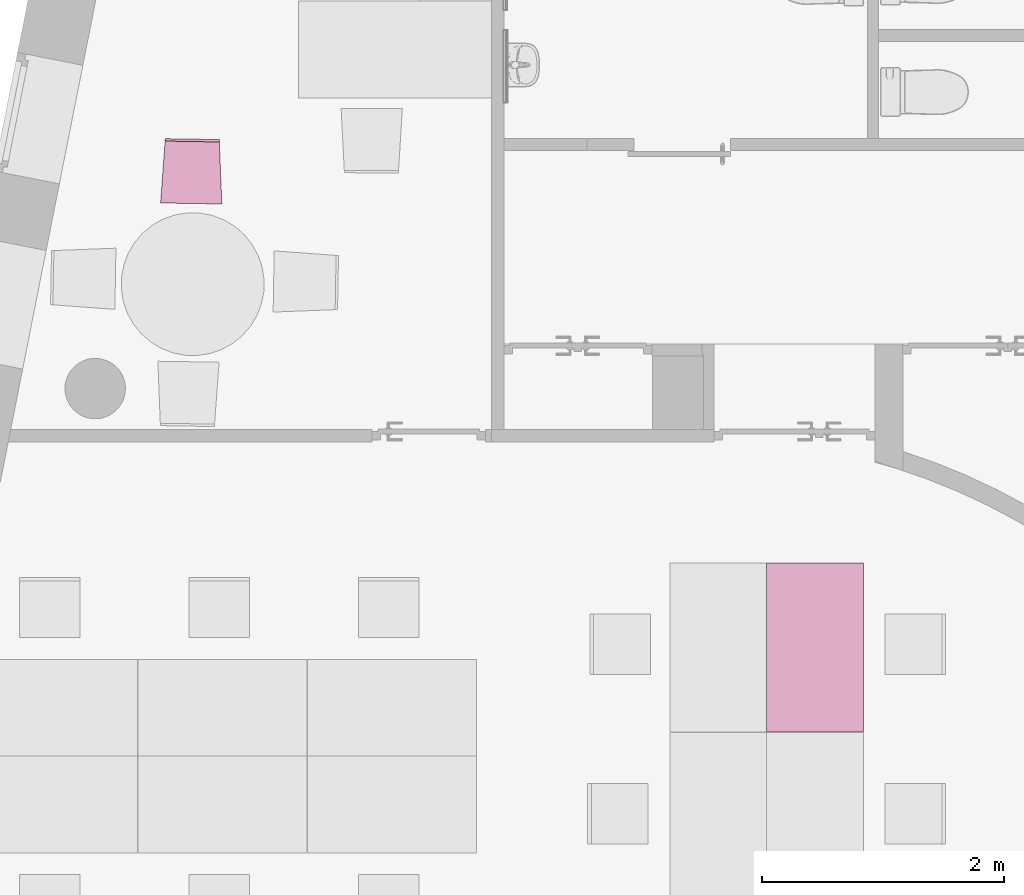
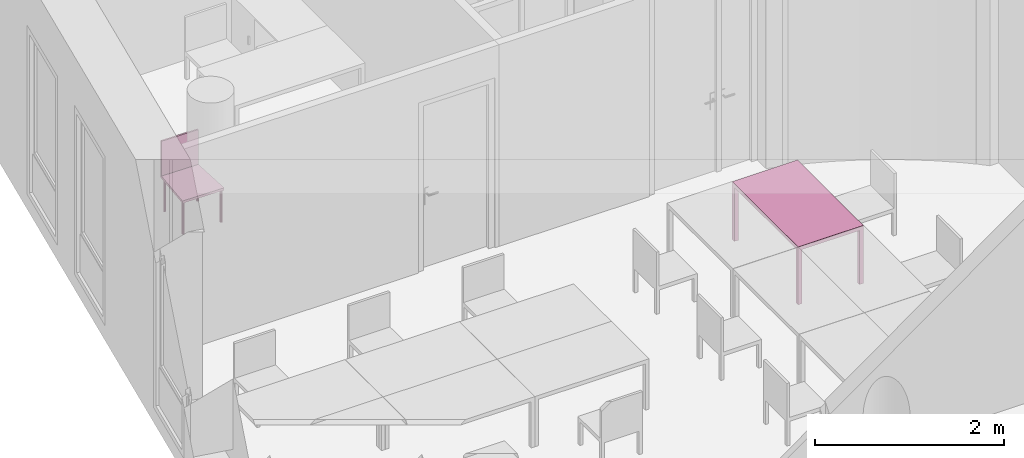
"""IFC4 building model written with IfcOpenShell, lengths in metres."""

from ifc_helpers import new_model, entity, si_unit, converted_unit, derived_unit, frame, origin, place, context, subcontext, project, spatial, faceted_brep, element, save


model = new_model("IFC4")

# Units and contexts
model_context = context("Model", 3, precision=1e-05, world=origin())
body_context = subcontext(model_context, "Body", "Model", "MODEL_VIEW")
ifc_project = project(units=[si_unit("LENGTHUNIT", "METRE"), si_unit("AREAUNIT", "SQUARE_METRE"), si_unit("VOLUMEUNIT", "CUBIC_METRE"), si_unit("MASSUNIT", "GRAM", prefix="KILO"), converted_unit("PLANEANGLEUNIT", "DEGREE", entity("IfcPlaneAngleMeasure", 0.0174532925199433), si_unit("PLANEANGLEUNIT", "RADIAN"), dimensions=[0, 0, 0, 0, 0, 0, 0]), derived_unit("THERMALTRANSMITTANCEUNIT", [(si_unit("POWERUNIT", "WATT"), 1), (si_unit("THERMODYNAMICTEMPERATUREUNIT", "KELVIN"), -1), (si_unit("LENGTHUNIT", "METRE"), -2)]), derived_unit("VOLUMETRICFLOWRATEUNIT", [(si_unit("LENGTHUNIT", "METRE"), 3), (converted_unit("TIMEUNIT", "hour", entity("IfcTimeMeasure", 3600.0), si_unit("TIMEUNIT", "SECOND"), dimensions=[0, 0, 1, 0, 0, 0, 0]), -1), (si_unit("LENGTHUNIT", "METRE"), -1)])], contexts=[model_context])

# Building, storeys
building_placement = place(None, origin())
building = spatial("IfcBuilding", under=ifc_project, at=building_placement, Name="HABITATGE PLURIFAMILIAR", CompositionType="ELEMENT")
storey_1_placement = place(building_placement, frame((0.0, 0.0, 9.26)))
storey_1 = spatial("IfcBuildingStorey", under=building, at=storey_1_placement, Name="PLANTA SEGONA", CompositionType="ELEMENT", Elevation=9.26)
storey_2_placement = place(storey_1_placement, frame((0.0, 0.0, 6.25)))
storey_2 = spatial("IfcBuildingStorey", under=storey_1, at=storey_2_placement, Name="NOU", CompositionType="PARTIAL")

# Furniture
furniture_1_placement = place(storey_2_placement, frame((406.611621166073, 21.0190050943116, -6.3499999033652)))
element("IfcFurniture", 1, at=furniture_1_placement, inside=storey_2, Name="Taula 140X80_P2", context=body_context, shape_type="Brep", body=[
    faceted_brep([(0.05, 1.35357768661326, 0.0), (0.05, 1.39732768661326, 0.0), (0.0, 1.39732768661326, 0.0), (0.0, 1.35357768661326, 0.0), (0.0, 1.35357768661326, 0.7), (0.0, 1.39732768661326, 0.7), (0.05, 1.39732768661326, 0.7), (0.05, 1.35357768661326, 0.7)], [[[0, 1, 2, 3]], [[4, 5, 6, 7]], [[3, 4, 7, 0]], [[2, 5, 4, 3]], [[1, 6, 5, 2]], [[0, 7, 6, 1]]], orient=[[False], [False], [False], [False], [False], [False]]),
    faceted_brep([(0.800069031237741, 1.35357768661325, 0.0), (0.800069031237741, 1.39732768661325, 0.0), (0.750069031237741, 1.39732768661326, 0.0), (0.750069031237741, 1.35357768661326, 0.0), (0.750069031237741, 1.35357768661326, 0.7), (0.750069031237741, 1.39732768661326, 0.7), (0.800069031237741, 1.39732768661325, 0.7), (0.800069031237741, 1.35357768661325, 0.7)], [[[0, 1, 2, 3]], [[4, 5, 6, 7]], [[3, 4, 7, 0]], [[2, 5, 4, 3]], [[1, 6, 5, 2]], [[0, 7, 6, 1]]], orient=[[False], [False], [False], [False], [False], [False]]),
    faceted_brep([(0.800069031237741, 0.0, 0.7), (0.800069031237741, 1.39732768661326, 0.7), (0.0, 1.39732768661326, 0.7), (0.0, 0.0, 0.7), (0.0, 0.0, 0.75), (0.0, 1.39732768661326, 0.75), (0.800069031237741, 1.39732768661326, 0.75), (0.800069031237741, 0.0, 0.75)], [[[0, 1, 2, 3]], [[4, 5, 6, 7]], [[3, 4, 7, 0]], [[2, 5, 4, 3]], [[1, 6, 5, 2]], [[0, 7, 6, 1]]], orient=[[False], [False], [False], [False], [False], [False]]),
    faceted_brep([(0.05, 0.0, 0.0), (0.05, 0.0437500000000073, 0.0), (0.0, 0.0437500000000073, 0.0), (0.0, 0.0, 0.0), (0.0, 0.0, 0.7), (0.0, 0.0437500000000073, 0.7), (0.05, 0.0437500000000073, 0.7), (0.05, 0.0, 0.7)], [[[0, 1, 2, 3]], [[4, 5, 6, 7]], [[3, 4, 7, 0]], [[2, 5, 4, 3]], [[1, 6, 5, 2]], [[0, 7, 6, 1]]], orient=[[False], [False], [False], [False], [False], [False]]),
    faceted_brep([(0.800069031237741, 0.0, 0.0), (0.800069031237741, 0.04375, 0.0), (0.750069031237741, 0.04375, 0.0), (0.750069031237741, 0.0, 0.0), (0.750069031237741, 0.0, 0.7), (0.750069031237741, 0.04375, 0.7), (0.800069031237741, 0.04375, 0.7), (0.800069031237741, 0.0, 0.7)], [[[0, 1, 2, 3]], [[4, 5, 6, 7]], [[3, 4, 7, 0]], [[2, 5, 4, 3]], [[1, 6, 5, 2]], [[0, 7, 6, 1]]], orient=[[False], [False], [False], [False], [False], [False]]),
])
furniture_2_placement = place(storey_2_placement, frame((401.597689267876, 25.3860485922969, -6.3514820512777)))
element("IfcFurniture", 2, at=furniture_2_placement, inside=storey_2, Name="Cadira confident_P2", context=body_context, shape_type="Brep", body=[
    faceted_brep([(0.467711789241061, 0.0257632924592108, 0.0), (0.467894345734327, 0.0231658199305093, 0.0), (0.468525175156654, 0.0206395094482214, 0.0), (0.469585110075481, 0.0182611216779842, 0.0), (0.471041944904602, 0.0161029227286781, 0.0), (0.47285141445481, 0.0142304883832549, 0.0), (0.474958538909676, 0.0127007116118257, 0.0), (0.477299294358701, 0.0115600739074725, 0.0), (0.479802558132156, 0.0108432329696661, 0.0), (0.482392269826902, 0.0105719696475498, 0.0), (0.48498974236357, 0.0107545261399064, 0.0), (0.487516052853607, 0.0113853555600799, 0.0), (0.489894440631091, 0.012445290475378, 0.0), (0.492052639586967, 0.0139021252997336, 0.0), (0.49392507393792, 0.0157115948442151, 0.0), (0.495454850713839, 0.0178187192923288, 0.0), (0.496595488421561, 0.0201594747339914, 0.0), (0.497312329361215, 0.0226627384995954, 0.0), (0.49758359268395, 0.0252524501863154, 0.0), (0.497401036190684, 0.0278499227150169, 0.0), (0.496770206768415, 0.0303762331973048, 0.0), (0.49571027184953, 0.032754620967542, 0.0), (0.494253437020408, 0.0349128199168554, 0.0), (0.492443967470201, 0.0367852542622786, 0.0), (0.490336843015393, 0.0383150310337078, 0.0), (0.487996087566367, 0.0394556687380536, 0.0), (0.485492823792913, 0.0401725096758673, 0.0), (0.482903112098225, 0.0404437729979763, 0.0), (0.480305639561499, 0.0402612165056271, 0.0), (0.477779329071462, 0.0396303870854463, 0.0), (0.475400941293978, 0.0385704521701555, 0.0), (0.473242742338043, 0.0371136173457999, 0.0), (0.47137030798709, 0.0353041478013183, 0.0), (0.469840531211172, 0.0331970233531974, 0.0), (0.468699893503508, 0.0308562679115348, 0.0), (0.467983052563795, 0.0283530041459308, 0.0), (0.467711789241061, 0.0257632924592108, 0.448281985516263), (0.467983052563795, 0.0283530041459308, 0.448281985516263), (0.468699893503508, 0.0308562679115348, 0.448281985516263), (0.469840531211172, 0.0331970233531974, 0.448281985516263), (0.47137030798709, 0.0353041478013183, 0.448281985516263), (0.473242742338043, 0.0371136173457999, 0.448281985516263), (0.475400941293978, 0.0385704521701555, 0.448281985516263), (0.477779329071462, 0.0396303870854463, 0.448281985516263), (0.480305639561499, 0.0402612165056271, 0.448281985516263), (0.482903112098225, 0.0404437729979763, 0.448281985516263), (0.485492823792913, 0.0401725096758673, 0.448281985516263), (0.487996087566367, 0.0394556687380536, 0.448281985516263), (0.490336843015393, 0.0383150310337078, 0.448281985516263), (0.492443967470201, 0.0367852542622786, 0.448281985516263), (0.494253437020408, 0.0349128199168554, 0.448281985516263), (0.49571027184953, 0.032754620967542, 0.448281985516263), (0.496770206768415, 0.0303762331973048, 0.448281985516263), (0.497401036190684, 0.0278499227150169, 0.448281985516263), (0.49758359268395, 0.0252524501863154, 0.448281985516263), (0.497312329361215, 0.0226627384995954, 0.448281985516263), (0.496595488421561, 0.0201594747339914, 0.448281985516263), (0.495454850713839, 0.0178187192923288, 0.448281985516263), (0.49392507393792, 0.0157115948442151, 0.448281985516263), (0.492052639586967, 0.0139021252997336, 0.448281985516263), (0.489894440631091, 0.012445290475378, 0.448281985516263), (0.487516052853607, 0.0113853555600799, 0.448281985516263), (0.48498974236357, 0.0107545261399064, 0.448281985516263), (0.482392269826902, 0.0105719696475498, 0.448281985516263), (0.479802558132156, 0.0108432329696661, 0.448281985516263), (0.477299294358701, 0.0115600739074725, 0.448281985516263), (0.474958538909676, 0.0127007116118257, 0.448281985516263), (0.47285141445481, 0.0142304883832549, 0.448281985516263), (0.471041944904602, 0.0161029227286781, 0.448281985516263), (0.469585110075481, 0.0182611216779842, 0.448281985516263), (0.468525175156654, 0.0206395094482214, 0.448281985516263), (0.467894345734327, 0.0231658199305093, 0.448281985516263)], [[[0, 1, 2, 3, 4, 5, 6, 7, 8, 9, 10, 11, 12, 13, 14, 15, 16, 17, 18, 19, 20, 21, 22, 23, 24, 25, 26, 27, 28, 29, 30, 31, 32, 33, 34, 35]], [[36, 37, 38, 39, 40, 41, 42, 43, 44, 45, 46, 47, 48, 49, 50, 51, 52, 53, 54, 55, 56, 57, 58, 59, 60, 61, 62, 63, 64, 65, 66, 67, 68, 69, 70, 71]], [[35, 37, 36, 0]], [[34, 38, 37, 35]], [[33, 39, 38, 34]], [[32, 40, 39, 33]], [[31, 41, 40, 32]], [[30, 42, 41, 31]], [[29, 43, 42, 30]], [[28, 44, 43, 29]], [[27, 45, 44, 28]], [[26, 46, 45, 27]], [[25, 47, 46, 26]], [[24, 48, 47, 25]], [[23, 49, 48, 24]], [[22, 50, 49, 23]], [[21, 51, 50, 22]], [[20, 52, 51, 21]], [[19, 53, 52, 20]], [[18, 54, 53, 19]], [[17, 55, 54, 18]], [[16, 56, 55, 17]], [[15, 57, 56, 16]], [[14, 58, 57, 15]], [[13, 59, 58, 14]], [[12, 60, 59, 13]], [[11, 61, 60, 12]], [[10, 62, 61, 11]], [[9, 63, 62, 10]], [[8, 64, 63, 9]], [[7, 65, 64, 8]], [[6, 66, 65, 7]], [[5, 67, 66, 6]], [[4, 68, 67, 5]], [[3, 69, 68, 4]], [[2, 70, 69, 3]], [[1, 71, 70, 2]], [[0, 36, 71, 1]]], orient=[[False], [False], [False], [False], [False], [False], [False], [False], [False], [False], [False], [False], [False], [False], [False], [False], [False], [False], [False], [False], [False], [False], [False], [False], [False], [False], [False], [False], [False], [False], [False], [False], [False], [False], [False], [False], [False], [False]]),
    faceted_brep([(0.447984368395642, 0.488575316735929, 0.0), (0.44816692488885, 0.485977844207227, 0.0), (0.448797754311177, 0.48345153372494, 0.0), (0.449857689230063, 0.481073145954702, 0.0), (0.451314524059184, 0.478914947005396, 0.0), (0.453123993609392, 0.477042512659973, 0.0), (0.455231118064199, 0.475512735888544, 0.0), (0.457571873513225, 0.474372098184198, 0.0), (0.460075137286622, 0.473655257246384, 0.0), (0.462664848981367, 0.473383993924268, 0.0), (0.465262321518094, 0.473566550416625, 0.0), (0.467788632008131, 0.474197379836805, 0.0), (0.470167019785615, 0.475257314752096, 0.0), (0.472325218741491, 0.476714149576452, 0.0), (0.474197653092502, 0.478523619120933, 0.0), (0.475727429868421, 0.480630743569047, 0.0), (0.476868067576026, 0.48297149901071, 0.0), (0.477584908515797, 0.485474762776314, 0.0), (0.477856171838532, 0.488064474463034, 0.0), (0.477673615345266, 0.490661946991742, 0.0), (0.47704278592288, 0.49318825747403, 0.0), (0.475982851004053, 0.49556664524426, 0.0), (0.47452601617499, 0.497724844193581, 0.0), (0.472716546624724, 0.499597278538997, 0.0), (0.470609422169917, 0.501127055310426, 0.0), (0.468268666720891, 0.502267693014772, 0.0), (0.465765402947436, 0.502984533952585, 0.0), (0.463175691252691, 0.503255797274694, 0.0), (0.460578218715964, 0.503073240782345, 0.0), (0.458051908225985, 0.502442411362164, 0.0), (0.455673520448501, 0.501382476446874, 0.0), (0.453515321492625, 0.499925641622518, 0.0), (0.451642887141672, 0.498116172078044, 0.0), (0.450113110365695, 0.496009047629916, 0.0), (0.448972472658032, 0.49366829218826, 0.0), (0.448255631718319, 0.491165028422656, 0.0), (0.447984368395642, 0.488575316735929, 0.448281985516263), (0.448255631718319, 0.491165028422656, 0.448281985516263), (0.448972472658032, 0.49366829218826, 0.448281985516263), (0.450113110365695, 0.496009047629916, 0.448281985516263), (0.451642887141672, 0.498116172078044, 0.448281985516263), (0.453515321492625, 0.499925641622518, 0.448281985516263), (0.455673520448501, 0.501382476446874, 0.448281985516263), (0.458051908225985, 0.502442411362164, 0.448281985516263), (0.460578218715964, 0.503073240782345, 0.448281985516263), (0.463175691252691, 0.503255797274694, 0.448281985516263), (0.465765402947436, 0.502984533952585, 0.448281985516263), (0.468268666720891, 0.502267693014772, 0.448281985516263), (0.470609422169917, 0.501127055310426, 0.448281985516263), (0.472716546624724, 0.499597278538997, 0.448281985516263), (0.47452601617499, 0.497724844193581, 0.448281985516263), (0.475982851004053, 0.49556664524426, 0.448281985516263), (0.47704278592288, 0.49318825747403, 0.448281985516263), (0.477673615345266, 0.490661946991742, 0.448281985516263), (0.477856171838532, 0.488064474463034, 0.448281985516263), (0.477584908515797, 0.485474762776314, 0.448281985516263), (0.476868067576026, 0.48297149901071, 0.448281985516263), (0.475727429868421, 0.480630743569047, 0.448281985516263), (0.474197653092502, 0.478523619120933, 0.448281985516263), (0.472325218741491, 0.476714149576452, 0.448281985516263), (0.470167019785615, 0.475257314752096, 0.448281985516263), (0.467788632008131, 0.474197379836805, 0.448281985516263), (0.465262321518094, 0.473566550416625, 0.448281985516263), (0.462664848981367, 0.473383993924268, 0.448281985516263), (0.460075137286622, 0.473655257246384, 0.448281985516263), (0.457571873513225, 0.474372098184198, 0.448281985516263), (0.455231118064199, 0.475512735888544, 0.448281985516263), (0.453123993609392, 0.477042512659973, 0.448281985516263), (0.451314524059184, 0.478914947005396, 0.448281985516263), (0.449857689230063, 0.481073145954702, 0.448281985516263), (0.448797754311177, 0.48345153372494, 0.448281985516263), (0.44816692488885, 0.485977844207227, 0.448281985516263)], [[[0, 1, 2, 3, 4, 5, 6, 7, 8, 9, 10, 11, 12, 13, 14, 15, 16, 17, 18, 19, 20, 21, 22, 23, 24, 25, 26, 27, 28, 29, 30, 31, 32, 33, 34, 35]], [[36, 37, 38, 39, 40, 41, 42, 43, 44, 45, 46, 47, 48, 49, 50, 51, 52, 53, 54, 55, 56, 57, 58, 59, 60, 61, 62, 63, 64, 65, 66, 67, 68, 69, 70, 71]], [[35, 37, 36, 0]], [[34, 38, 37, 35]], [[33, 39, 38, 34]], [[32, 40, 39, 33]], [[31, 41, 40, 32]], [[30, 42, 41, 31]], [[29, 43, 42, 30]], [[28, 44, 43, 29]], [[27, 45, 44, 28]], [[26, 46, 45, 27]], [[25, 47, 46, 26]], [[24, 48, 47, 25]], [[23, 49, 48, 24]], [[22, 50, 49, 23]], [[21, 51, 50, 22]], [[20, 52, 51, 21]], [[19, 53, 52, 20]], [[18, 54, 53, 19]], [[17, 55, 54, 18]], [[16, 56, 55, 17]], [[15, 57, 56, 16]], [[14, 58, 57, 15]], [[13, 59, 58, 14]], [[12, 60, 59, 13]], [[11, 61, 60, 12]], [[10, 62, 61, 11]], [[9, 63, 62, 10]], [[8, 64, 63, 9]], [[7, 65, 64, 8]], [[6, 66, 65, 7]], [[5, 67, 66, 6]], [[4, 68, 67, 5]], [[3, 69, 68, 4]], [[2, 70, 69, 3]], [[1, 71, 70, 2]], [[0, 36, 71, 1]]], orient=[[False], [False], [False], [False], [False], [False], [False], [False], [False], [False], [False], [False], [False], [False], [False], [False], [False], [False], [False], [False], [False], [False], [False], [False], [False], [False], [False], [False], [False], [False], [False], [False], [False], [False], [False], [False], [False], [False]]),
    faceted_brep([(0.0077790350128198, 0.0336286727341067, 0.0), (0.00796159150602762, 0.0310312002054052, 0.0), (0.00859242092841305, 0.0285048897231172, 0.0), (0.00965235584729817, 0.0261265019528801, 0.0), (0.0111091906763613, 0.0239683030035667, 0.0), (0.012918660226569, 0.0220958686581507, 0.0), (0.0150257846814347, 0.0205660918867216, 0.0), (0.0173665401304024, 0.0194254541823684, 0.0), (0.0198698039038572, 0.018708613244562, 0.0), (0.0224595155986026, 0.0184373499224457, 0.0), (0.0250569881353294, 0.018619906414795, 0.0), (0.0275832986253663, 0.0192507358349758, 0.0), (0.0299616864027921, 0.0203106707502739, 0.0), (0.0321198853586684, 0.0217675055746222, 0.0), (0.0339923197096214, 0.0235769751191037, 0.0), (0.035522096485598, 0.0256840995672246, 0.0), (0.0366627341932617, 0.0280248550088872, 0.0), (0.0373795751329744, 0.030528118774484, 0.0), (0.037650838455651, 0.0331178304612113, 0.0), (0.0374682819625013, 0.0357153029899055, 0.0), (0.0368374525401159, 0.0382416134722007, 0.0), (0.0357775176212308, 0.0406200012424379, 0.0), (0.0343206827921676, 0.042778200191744, 0.0), (0.0325112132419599, 0.0446506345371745, 0.0), (0.0304040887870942, 0.0461804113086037, 0.0), (0.0280633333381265, 0.0473210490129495, 0.0), (0.0255600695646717, 0.0480378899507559, 0.0), (0.0229703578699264, 0.0483091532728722, 0.0), (0.0203728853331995, 0.048126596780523, 0.0), (0.0178465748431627, 0.0474957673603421, 0.0), (0.0154681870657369, 0.0464358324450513, 0.0), (0.0133099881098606, 0.0449789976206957, 0.0), (0.0114375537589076, 0.0431695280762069, 0.0), (0.00990777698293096, 0.0410624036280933, 0.0), (0.00876713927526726, 0.0387216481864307, 0.0), (0.00805029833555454, 0.0362183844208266, 0.0), (0.0077790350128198, 0.0336286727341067, 0.448281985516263), (0.00805029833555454, 0.0362183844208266, 0.448281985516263), (0.00876713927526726, 0.0387216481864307, 0.448281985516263), (0.00990777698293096, 0.0410624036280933, 0.448281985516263), (0.0114375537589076, 0.0431695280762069, 0.448281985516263), (0.0133099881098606, 0.0449789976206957, 0.448281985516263), (0.0154681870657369, 0.0464358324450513, 0.448281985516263), (0.0178465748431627, 0.0474957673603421, 0.448281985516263), (0.0203728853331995, 0.048126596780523, 0.448281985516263), (0.0229703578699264, 0.0483091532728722, 0.448281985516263), (0.0255600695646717, 0.0480378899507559, 0.448281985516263), (0.0280633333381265, 0.0473210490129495, 0.448281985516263), (0.0304040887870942, 0.0461804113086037, 0.448281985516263), (0.0325112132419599, 0.0446506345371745, 0.448281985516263), (0.0343206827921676, 0.042778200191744, 0.448281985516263), (0.0357775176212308, 0.0406200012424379, 0.448281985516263), (0.0368374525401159, 0.0382416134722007, 0.448281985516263), (0.0374682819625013, 0.0357153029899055, 0.448281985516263), (0.037650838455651, 0.0331178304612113, 0.448281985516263), (0.0373795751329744, 0.030528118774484, 0.448281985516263), (0.0366627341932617, 0.0280248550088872, 0.448281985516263), (0.035522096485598, 0.0256840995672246, 0.448281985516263), (0.0339923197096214, 0.0235769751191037, 0.448281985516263), (0.0321198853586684, 0.0217675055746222, 0.448281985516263), (0.0299616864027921, 0.0203106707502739, 0.448281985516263), (0.0275832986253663, 0.0192507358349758, 0.448281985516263), (0.0250569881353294, 0.018619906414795, 0.448281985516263), (0.0224595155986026, 0.0184373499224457, 0.448281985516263), (0.0198698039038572, 0.018708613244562, 0.448281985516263), (0.0173665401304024, 0.0194254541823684, 0.448281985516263), (0.0150257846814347, 0.0205660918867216, 0.448281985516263), (0.012918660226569, 0.0220958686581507, 0.448281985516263), (0.0111091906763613, 0.0239683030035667, 0.448281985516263), (0.00965235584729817, 0.0261265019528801, 0.448281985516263), (0.00859242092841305, 0.0285048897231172, 0.448281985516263), (0.00796159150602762, 0.0310312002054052, 0.448281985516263)], [[[0, 1, 2, 3, 4, 5, 6, 7, 8, 9, 10, 11, 12, 13, 14, 15, 16, 17, 18, 19, 20, 21, 22, 23, 24, 25, 26, 27, 28, 29, 30, 31, 32, 33, 34, 35]], [[36, 37, 38, 39, 40, 41, 42, 43, 44, 45, 46, 47, 48, 49, 50, 51, 52, 53, 54, 55, 56, 57, 58, 59, 60, 61, 62, 63, 64, 65, 66, 67, 68, 69, 70, 71]], [[35, 37, 36, 0]], [[34, 38, 37, 35]], [[33, 39, 38, 34]], [[32, 40, 39, 33]], [[31, 41, 40, 32]], [[30, 42, 41, 31]], [[29, 43, 42, 30]], [[28, 44, 43, 29]], [[27, 45, 44, 28]], [[26, 46, 45, 27]], [[25, 47, 46, 26]], [[24, 48, 47, 25]], [[23, 49, 48, 24]], [[22, 50, 49, 23]], [[21, 51, 50, 22]], [[20, 52, 51, 21]], [[19, 53, 52, 20]], [[18, 54, 53, 19]], [[17, 55, 54, 18]], [[16, 56, 55, 17]], [[15, 57, 56, 16]], [[14, 58, 57, 15]], [[13, 59, 58, 14]], [[12, 60, 59, 13]], [[11, 61, 60, 12]], [[10, 62, 61, 11]], [[9, 63, 62, 10]], [[8, 64, 63, 9]], [[7, 65, 64, 8]], [[6, 66, 65, 7]], [[5, 67, 66, 6]], [[4, 68, 67, 5]], [[3, 69, 68, 4]], [[2, 70, 69, 3]], [[1, 71, 70, 2]], [[0, 36, 71, 1]]], orient=[[False], [False], [False], [False], [False], [False], [False], [False], [False], [False], [False], [False], [False], [False], [False], [False], [False], [False], [False], [False], [False], [False], [False], [False], [False], [False], [False], [False], [False], [False], [False], [False], [False], [False], [False], [False], [False], [False]]),
    faceted_brep([(0.0480428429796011, 0.495414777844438, 0.0), (0.0482253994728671, 0.492817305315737, 0.0), (0.0488562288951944, 0.490290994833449, 0.0), (0.0499161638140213, 0.487912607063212, 0.0), (0.0513729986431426, 0.485754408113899, 0.0), (0.0531824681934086, 0.483881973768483, 0.0), (0.0552895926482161, 0.482352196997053, 0.0), (0.0576303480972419, 0.481211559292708, 0.0), (0.0601336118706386, 0.480494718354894, 0.0), (0.0627233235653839, 0.480223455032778, 0.0), (0.0653207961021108, 0.480406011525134, 0.0), (0.0678471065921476, 0.481036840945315, 0.0), (0.0702254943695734, 0.482096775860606, 0.0), (0.0723836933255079, 0.483553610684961, 0.0), (0.0742561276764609, 0.485363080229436, 0.0), (0.0757859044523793, 0.487470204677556, 0.0), (0.076926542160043, 0.489810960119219, 0.0), (0.0776433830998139, 0.492314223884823, 0.0), (0.0779146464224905, 0.494903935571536, 0.0), (0.0777320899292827, 0.497501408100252, 0.0), (0.0771012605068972, 0.50002771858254, 0.0), (0.0760413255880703, 0.50240610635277, 0.0), (0.074584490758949, 0.504564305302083, 0.0), (0.0727750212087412, 0.506436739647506, 0.0), (0.0706678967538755, 0.507966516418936, 0.0), (0.0683271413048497, 0.509107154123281, 0.0), (0.0658238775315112, 0.509823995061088, 0.0), (0.0632341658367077, 0.510095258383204, 0.0), (0.060636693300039, 0.509912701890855, 0.0), (0.058110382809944, 0.509281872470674, 0.0), (0.05573199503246, 0.508221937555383, 0.0), (0.0535737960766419, 0.506765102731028, 0.0), (0.0517013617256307, 0.504955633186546, 0.0), (0.0501715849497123, 0.502848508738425, 0.0), (0.0490309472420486, 0.50050775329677, 0.0), (0.0483141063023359, 0.498004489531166, 0.0), (0.0480428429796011, 0.495414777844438, 0.448281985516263), (0.0483141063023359, 0.498004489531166, 0.448281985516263), (0.0490309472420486, 0.50050775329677, 0.448281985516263), (0.0501715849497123, 0.502848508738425, 0.448281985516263), (0.0517013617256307, 0.504955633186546, 0.448281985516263), (0.0535737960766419, 0.506765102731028, 0.448281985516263), (0.05573199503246, 0.508221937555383, 0.448281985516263), (0.058110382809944, 0.509281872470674, 0.448281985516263), (0.060636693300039, 0.509912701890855, 0.448281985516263), (0.0632341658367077, 0.510095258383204, 0.448281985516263), (0.0658238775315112, 0.509823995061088, 0.448281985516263), (0.0683271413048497, 0.509107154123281, 0.448281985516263), (0.0706678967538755, 0.507966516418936, 0.448281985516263), (0.0727750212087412, 0.506436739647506, 0.448281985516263), (0.074584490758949, 0.504564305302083, 0.448281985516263), (0.0760413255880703, 0.50240610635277, 0.448281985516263), (0.0771012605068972, 0.50002771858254, 0.448281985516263), (0.0777320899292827, 0.497501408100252, 0.448281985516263), (0.0779146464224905, 0.494903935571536, 0.448281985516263), (0.0776433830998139, 0.492314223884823, 0.448281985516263), (0.076926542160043, 0.489810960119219, 0.448281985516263), (0.0757859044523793, 0.487470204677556, 0.448281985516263), (0.0742561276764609, 0.485363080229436, 0.448281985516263), (0.0723836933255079, 0.483553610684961, 0.448281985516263), (0.0702254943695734, 0.482096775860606, 0.448281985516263), (0.0678471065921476, 0.481036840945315, 0.448281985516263), (0.0653207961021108, 0.480406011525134, 0.448281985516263), (0.0627233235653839, 0.480223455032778, 0.448281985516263), (0.0601336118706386, 0.480494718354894, 0.448281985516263), (0.0576303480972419, 0.481211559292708, 0.448281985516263), (0.0552895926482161, 0.482352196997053, 0.448281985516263), (0.0531824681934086, 0.483881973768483, 0.448281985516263), (0.0513729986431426, 0.485754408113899, 0.448281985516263), (0.0499161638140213, 0.487912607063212, 0.448281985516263), (0.0488562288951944, 0.490290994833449, 0.448281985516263), (0.0482253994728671, 0.492817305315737, 0.448281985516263)], [[[0, 1, 2, 3, 4, 5, 6, 7, 8, 9, 10, 11, 12, 13, 14, 15, 16, 17, 18, 19, 20, 21, 22, 23, 24, 25, 26, 27, 28, 29, 30, 31, 32, 33, 34, 35]], [[36, 37, 38, 39, 40, 41, 42, 43, 44, 45, 46, 47, 48, 49, 50, 51, 52, 53, 54, 55, 56, 57, 58, 59, 60, 61, 62, 63, 64, 65, 66, 67, 68, 69, 70, 71]], [[35, 37, 36, 0]], [[34, 38, 37, 35]], [[33, 39, 38, 34]], [[32, 40, 39, 33]], [[31, 41, 40, 32]], [[30, 42, 41, 31]], [[29, 43, 42, 30]], [[28, 44, 43, 29]], [[27, 45, 44, 28]], [[26, 46, 45, 27]], [[25, 47, 46, 26]], [[24, 48, 47, 25]], [[23, 49, 48, 24]], [[22, 50, 49, 23]], [[21, 51, 50, 22]], [[20, 52, 51, 21]], [[19, 53, 52, 20]], [[18, 54, 53, 19]], [[17, 55, 54, 18]], [[16, 56, 55, 17]], [[15, 57, 56, 16]], [[14, 58, 57, 15]], [[13, 59, 58, 14]], [[12, 60, 59, 13]], [[11, 61, 60, 12]], [[10, 62, 61, 11]], [[9, 63, 62, 10]], [[8, 64, 63, 9]], [[7, 65, 64, 8]], [[6, 66, 65, 7]], [[5, 67, 66, 6]], [[4, 68, 67, 5]], [[3, 69, 68, 4]], [[2, 70, 69, 3]], [[1, 71, 70, 2]], [[0, 36, 71, 1]]], orient=[[False], [False], [False], [False], [False], [False], [False], [False], [False], [False], [False], [False], [False], [False], [False], [False], [False], [False], [False], [False], [False], [False], [False], [False], [False], [False], [False], [False], [False], [False], [False], [False], [False], [False], [False], [False], [False], [False]]),
    faceted_brep([(0.0391024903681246, 0.540677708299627, 0.418281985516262), (0.0, 0.00866072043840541, 0.418281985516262), (0.506440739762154, 0.0, 0.418281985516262), (0.485552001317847, 0.533042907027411, 0.418281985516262), (0.0, 0.00866072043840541, 0.448281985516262), (0.0391024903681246, 0.540677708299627, 0.448281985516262), (0.485552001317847, 0.533042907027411, 0.448281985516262), (0.506440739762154, 0.0, 0.448281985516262)], [[[0, 1, 2, 3]], [[4, 5, 6, 7]], [[1, 0, 5, 4]], [[2, 1, 4, 7]], [[3, 2, 7, 6]], [[0, 3, 6, 5]]], orient=[[False], [False], [False], [False], [False], [False]]),
    faceted_brep([(0.0387605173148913, 0.520680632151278, 0.448281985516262), (0.485210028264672, 0.513045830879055, 0.448281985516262), (0.485552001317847, 0.533042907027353, 0.448281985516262), (0.0391024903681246, 0.540677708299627, 0.448281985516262), (0.485210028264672, 0.513045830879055, 0.898281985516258), (0.0387605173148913, 0.520680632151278, 0.898281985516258), (0.0391024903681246, 0.540677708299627, 0.898281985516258), (0.485552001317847, 0.533042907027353, 0.898281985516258)], [[[0, 1, 2, 3]], [[4, 5, 6, 7]], [[1, 0, 5, 4]], [[2, 1, 4, 7]], [[3, 2, 7, 6]], [[0, 3, 6, 5]]], orient=[[False], [False], [False], [False], [False], [False]]),
])

save(model, "model.ifc")
